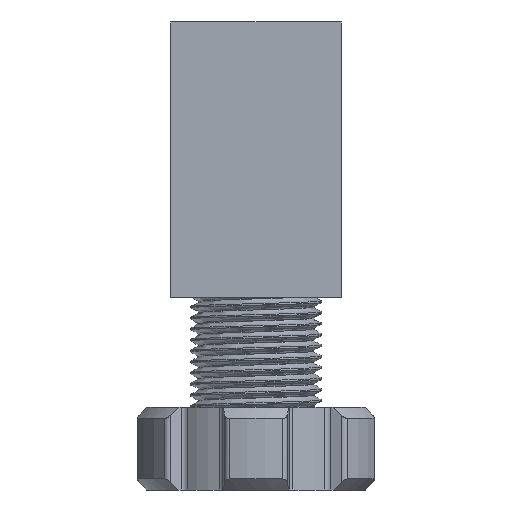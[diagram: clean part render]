
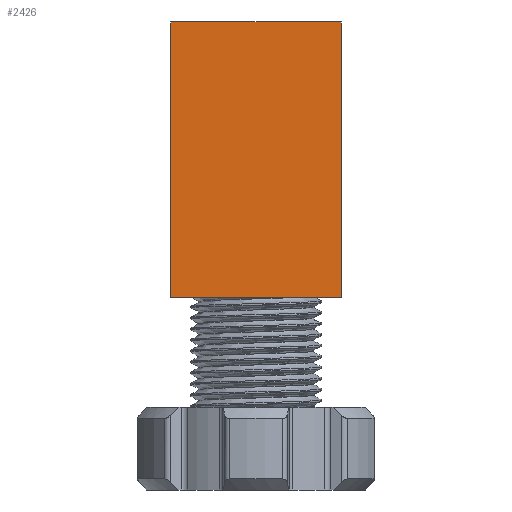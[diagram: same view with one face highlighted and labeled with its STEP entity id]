
A CAD part, front view. The second image highlights one B-rep face of the part: STEP entity #2426.
In plain terms, the highlighted planar face has unit normal (0, -1, 0).
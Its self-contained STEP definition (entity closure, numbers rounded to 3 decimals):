
#62=PLANE('',#2641);
#234=FACE_OUTER_BOUND('',#366,.T.);
#366=EDGE_LOOP('',(#2221,#2222,#2223,#2224));
#641=LINE('',#11283,#822);
#692=LINE('',#11390,#873);
#695=LINE('',#11396,#876);
#709=LINE('',#11430,#890);
#822=VECTOR('',#3083,10.);
#873=VECTOR('',#3176,10.);
#876=VECTOR('',#3181,10.);
#890=VECTOR('',#3223,10.);
#1086=VERTEX_POINT('',#11280);
#1087=VERTEX_POINT('',#11282);
#1122=VERTEX_POINT('',#11388);
#1124=VERTEX_POINT('',#11394);
#1422=EDGE_CURVE('',#1086,#1087,#641,.T.);
#1476=EDGE_CURVE('',#1086,#1122,#692,.T.);
#1479=EDGE_CURVE('',#1124,#1122,#695,.T.);
#1496=EDGE_CURVE('',#1087,#1124,#709,.T.);
#2221=ORIENTED_EDGE('',*,*,#1496,.F.);
#2222=ORIENTED_EDGE('',*,*,#1422,.F.);
#2223=ORIENTED_EDGE('',*,*,#1476,.T.);
#2224=ORIENTED_EDGE('',*,*,#1479,.F.);
#2426=ADVANCED_FACE('',(#234),#62,.T.);
#2641=AXIS2_PLACEMENT_3D('',#11429,#3221,#3222);
#3083=DIRECTION('',(-1.,0.,0.));
#3176=DIRECTION('',(0.,0.,1.));
#3181=DIRECTION('',(1.,0.,0.));
#3221=DIRECTION('center_axis',(0.,-1.,0.));
#3222=DIRECTION('ref_axis',(1.,0.,0.));
#3223=DIRECTION('',(0.,0.,1.));
#11280=CARTESIAN_POINT('',(15.5,-76.257,-20.));
#11282=CARTESIAN_POINT('',(-15.5,-76.257,-20.));
#11283=CARTESIAN_POINT('',(15.5,-76.257,-20.));
#11388=CARTESIAN_POINT('',(15.5,-76.257,30.));
#11390=CARTESIAN_POINT('',(15.5,-76.257,-20.));
#11394=CARTESIAN_POINT('',(-15.5,-76.257,30.));
#11396=CARTESIAN_POINT('',(-7.75,-76.257,30.));
#11429=CARTESIAN_POINT('Origin',(-15.5,-76.257,-20.));
#11430=CARTESIAN_POINT('',(-15.5,-76.257,-20.));
